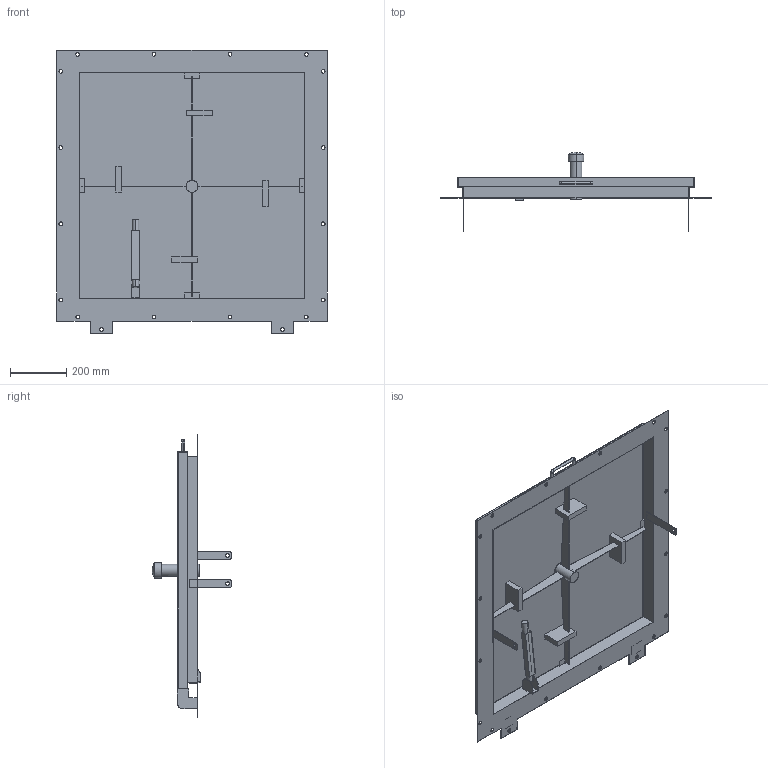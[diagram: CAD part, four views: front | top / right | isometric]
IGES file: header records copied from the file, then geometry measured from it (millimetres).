
Start section:  PTC IGES file: 52427535.igs
Global section: file name: 52427535.igs; native system: Creo Parametric by PTC Inc.; preprocessor: 2022162; author: wep; organization: Unknown; date: 20250805.102433; units: millimetre
Bounding box: 960 x 282 x 1005 mm (x, y, z)
Surface area: 2810539.8 mm2 (no closed solid volume)
Topology: 0 solids, 0 shells, 815 faces, 4408 edges, 4402 vertices
Faces by surface type: bspline 474, extrusion 275, revolution 66
